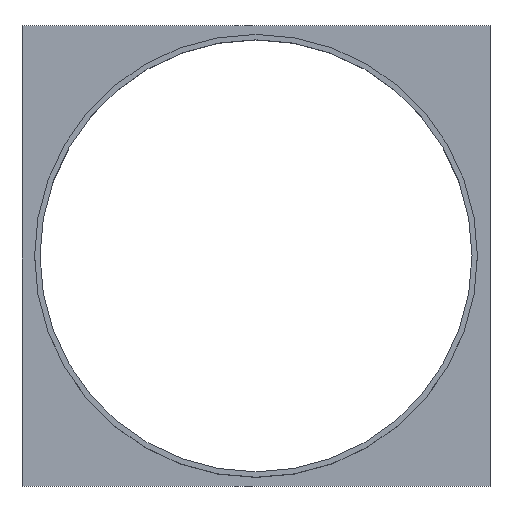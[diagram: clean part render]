
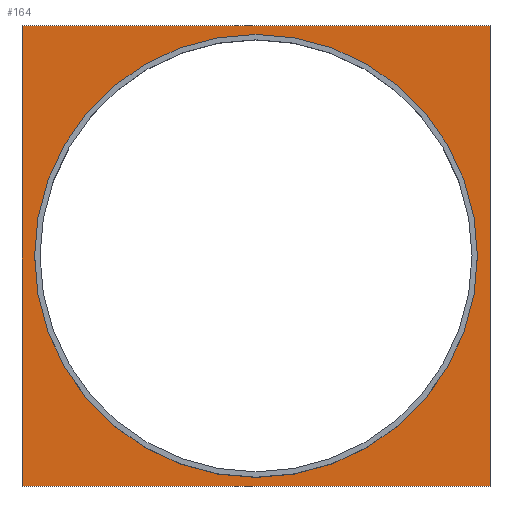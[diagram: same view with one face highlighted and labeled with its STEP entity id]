
A CAD part, top view. The second image highlights one B-rep face of the part: STEP entity #164.
In plain terms, the highlighted planar face has unit normal (0, 0, 1).
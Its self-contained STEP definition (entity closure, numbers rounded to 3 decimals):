
#16=FACE_BOUND('',#39,.T.);
#19=PLANE('',#194);
#28=FACE_OUTER_BOUND('',#38,.T.);
#38=EDGE_LOOP('',(#132,#133,#134,#135));
#39=EDGE_LOOP('',(#136,#137));
#48=LINE('',#271,#62);
#49=LINE('',#273,#63);
#50=LINE('',#275,#64);
#51=LINE('',#276,#65);
#62=VECTOR('',#226,10.);
#63=VECTOR('',#227,10.);
#64=VECTOR('',#228,10.);
#65=VECTOR('',#229,10.);
#79=CIRCLE('',#191,61.5);
#80=CIRCLE('',#192,61.5);
#86=VERTEX_POINT('',#262);
#87=VERTEX_POINT('',#264);
#88=VERTEX_POINT('',#269);
#89=VERTEX_POINT('',#270);
#90=VERTEX_POINT('',#272);
#91=VERTEX_POINT('',#274);
#103=EDGE_CURVE('',#87,#86,#79,.T.);
#104=EDGE_CURVE('',#86,#87,#80,.T.);
#105=EDGE_CURVE('',#88,#89,#48,.T.);
#106=EDGE_CURVE('',#89,#90,#49,.T.);
#107=EDGE_CURVE('',#90,#91,#50,.T.);
#108=EDGE_CURVE('',#91,#88,#51,.T.);
#132=ORIENTED_EDGE('',*,*,#105,.T.);
#133=ORIENTED_EDGE('',*,*,#106,.T.);
#134=ORIENTED_EDGE('',*,*,#107,.T.);
#135=ORIENTED_EDGE('',*,*,#108,.T.);
#136=ORIENTED_EDGE('',*,*,#103,.T.);
#137=ORIENTED_EDGE('',*,*,#104,.T.);
#164=ADVANCED_FACE('',(#28,#16),#19,.T.);
#191=AXIS2_PLACEMENT_3D('',#265,#218,#219);
#192=AXIS2_PLACEMENT_3D('',#266,#220,#221);
#194=AXIS2_PLACEMENT_3D('',#268,#224,#225);
#218=DIRECTION('center_axis',(0.,0.,-1.));
#219=DIRECTION('ref_axis',(1.,0.,0.));
#220=DIRECTION('center_axis',(0.,0.,-1.));
#221=DIRECTION('ref_axis',(1.,0.,0.));
#224=DIRECTION('center_axis',(0.,0.,1.));
#225=DIRECTION('ref_axis',(0.,1.,0.));
#226=DIRECTION('',(-1.,0.,0.));
#227=DIRECTION('',(0.,-1.,0.));
#228=DIRECTION('',(1.,0.,0.));
#229=DIRECTION('',(0.,1.,0.));
#262=CARTESIAN_POINT('',(3.5,64.,1.5));
#264=CARTESIAN_POINT('',(126.5,64.,1.5));
#265=CARTESIAN_POINT('Origin',(65.,64.,1.5));
#266=CARTESIAN_POINT('Origin',(65.,64.,1.5));
#268=CARTESIAN_POINT('Origin',(65.,64.,1.5));
#269=CARTESIAN_POINT('',(130.,128.,1.5));
#270=CARTESIAN_POINT('',(0.,128.,1.5));
#271=CARTESIAN_POINT('',(65.,128.,1.5));
#272=CARTESIAN_POINT('',(0.,0.,1.5));
#273=CARTESIAN_POINT('',(0.,64.,1.5));
#274=CARTESIAN_POINT('',(130.,0.,1.5));
#275=CARTESIAN_POINT('',(65.,0.,1.5));
#276=CARTESIAN_POINT('',(130.,64.,1.5));
